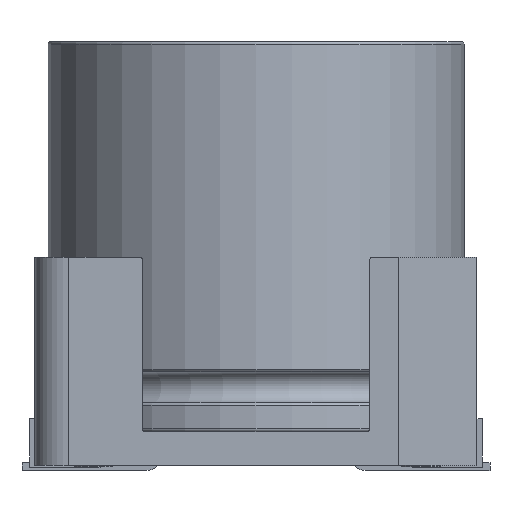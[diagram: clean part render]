
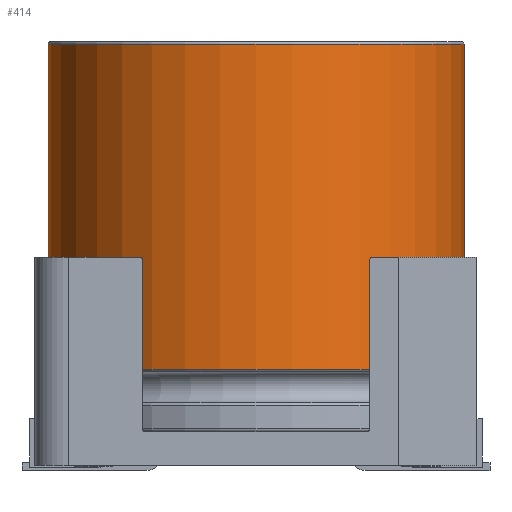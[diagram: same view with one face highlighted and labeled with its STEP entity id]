
A CAD part, front view. The second image highlights one B-rep face of the part: STEP entity #414.
In plain terms, the highlighted cylindrical face has radius 8 mm (diameter 16 mm), a full revolution.
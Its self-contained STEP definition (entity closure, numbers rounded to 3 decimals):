
#144=CYLINDRICAL_SURFACE('',#3352,8.);
#414=ADVANCED_FACE('',(#1339,#1340),#144,.T.);
#1339=FACE_BOUND('',#1421,.T.);
#1340=FACE_BOUND('',#1422,.T.);
#1421=EDGE_LOOP('',(#1851));
#1422=EDGE_LOOP('',(#1852));
#1851=ORIENTED_EDGE('',*,*,#2887,.T.);
#1852=ORIENTED_EDGE('',*,*,#2888,.T.);
#2551=VERTEX_POINT('',#4896);
#2552=VERTEX_POINT('',#4898);
#2887=EDGE_CURVE('',#2551,#2551,#3197,.T.);
#2888=EDGE_CURVE('',#2552,#2552,#3198,.T.);
#3197=CIRCLE('',#3350,8.);
#3198=CIRCLE('',#3351,8.);
#3350=AXIS2_PLACEMENT_3D('',#4895,#3840,#3841);
#3351=AXIS2_PLACEMENT_3D('',#4897,#3842,#3843);
#3352=AXIS2_PLACEMENT_3D('',#4899,#3844,#3845);
#3840=DIRECTION('',(0.,0.,1.));
#3841=DIRECTION('',(1.,0.,0.));
#3842=DIRECTION('',(0.,0.,-1.));
#3843=DIRECTION('',(-1.,0.,0.));
#3844=DIRECTION('',(0.,0.,-1.));
#3845=DIRECTION('',(-1.,0.,0.));
#4895=CARTESIAN_POINT('',(0.,0.,3.7));
#4896=CARTESIAN_POINT('',(8.,0.,3.7));
#4897=CARTESIAN_POINT('',(0.,0.,16.2));
#4898=CARTESIAN_POINT('',(-8.,0.,16.2));
#4899=CARTESIAN_POINT('',(0.,0.,0.));
